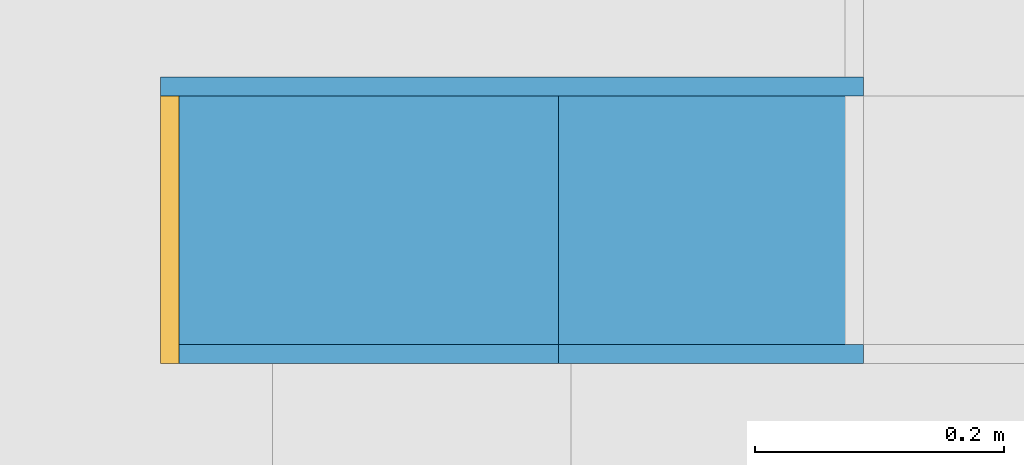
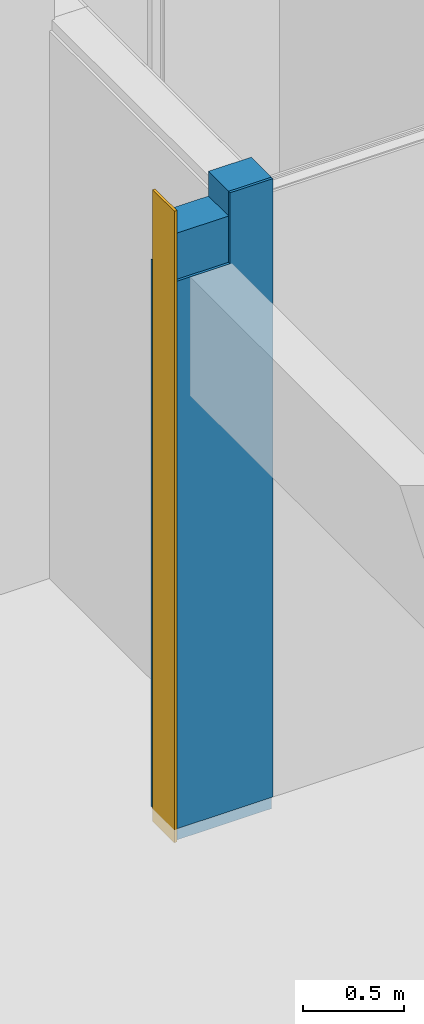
# One storey, part 24 of 139: 3 building element parts, 1 covering, 1 opening, 1 element without a shape of its own.
"""IFC2X3 building model written with IfcOpenShell, lengths in millimetres."""

from ifc_helpers import new_model, entity, si_unit, converted_unit, derived_unit, money_unit, direction, frame, origin_with_axes, place, context, subcontext, project, spatial, faceted_brep, source, transform, mapped, material, type_object, element, fill, aggregate, save


model = new_model("IFC2X3")

# Units and contexts
model_context = context("Model", 3, precision=0.01, world=origin_with_axes(), true_north=direction((0.0, 1.0)))
body_context = subcontext(model_context, "Body", "Model", "MODEL_VIEW")
ifc_project = project(units=[si_unit("LENGTHUNIT", "METRE", prefix="MILLI"), si_unit("AREAUNIT", "SQUARE_METRE"), si_unit("VOLUMEUNIT", "CUBIC_METRE"), converted_unit("PLANEANGLEUNIT", "DEGREE", entity("IfcPlaneAngleMeasure", 0.0174532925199), si_unit("PLANEANGLEUNIT", "RADIAN"), dimensions=[0, 0, 0, 0, 0, 0, 0]), money_unit("EUR"), converted_unit("TIMEUNIT", "Year", entity("IfcTimeMeasure", 31556926.0), si_unit("TIMEUNIT", "SECOND"), dimensions=[0, 0, 1, 0, 0, 0, 0]), si_unit("MASSUNIT", "GRAM", prefix="KILO"), si_unit("THERMODYNAMICTEMPERATUREUNIT", "DEGREE_CELSIUS"), si_unit("LUMINOUSINTENSITYUNIT", "LUMEN"), si_unit("ENERGYUNIT", "JOULE", prefix="MEGA"), derived_unit("THERMALCONDUCTANCEUNIT", [(si_unit("POWERUNIT", "WATT"), 1), (si_unit("LENGTHUNIT", "METRE"), -1), (si_unit("THERMODYNAMICTEMPERATUREUNIT", "KELVIN"), -1)]), derived_unit("SPECIFICHEATCAPACITYUNIT", [(si_unit("ENERGYUNIT", "JOULE"), 1), (si_unit("MASSUNIT", "GRAM", prefix="KILO"), -1), (si_unit("THERMODYNAMICTEMPERATUREUNIT", "KELVIN"), -1)]), derived_unit("MASSDENSITYUNIT", [(si_unit("MASSUNIT", "GRAM", prefix="KILO"), 1), (si_unit("VOLUMEUNIT", "CUBIC_METRE"), -1)])], contexts=[model_context])

# Site, building, storey
site_placement = place(None, origin_with_axes())
site = spatial("IfcSite", under=ifc_project, at=site_placement, Name="Kolde pst 67a", CompositionType="ELEMENT")
building_placement = place(site_placement, origin_with_axes())
building = spatial("IfcBuilding", under=site, at=building_placement, Name="Riigigümnaasium", CompositionType="ELEMENT")
storey_placement = place(building_placement, frame((0.0, 0.0, 4600.0), z_axis=(0.0, 0.0, 1.0), x_axis=(1.0, 0.0, 0.0)))
storey = spatial("IfcBuildingStorey", under=building, at=storey_placement, Name="2. korrus", CompositionType="ELEMENT", Elevation=4600.0)

# Covering
ifc_material_1 = material(Name="_VIIMISTLUSKIHT - viimistlus vastavalt SA osale")
covering_type = type_object("IfcCoveringType", Name="Returned End 25", PredefinedType="NOTDEFINED")
shared_shape = source(origin_with_axes(), body_context, "Body", "Brep", [
    faceted_brep([(0.0, 0.0, 0.0), (0.0, -15.0, 0.0), (0.0, -15.0, 3830.0), (0.0, 0.0, 3830.0), (215.0, 0.0, 0.0), (215.0, -15.0, 0.0), (215.0, -15.0, 3830.0), (215.0, 0.0, 3830.0)], [[[0, 1, 2, 3]], [[4, 5, 1, 0]], [[5, 6, 2, 1]], [[6, 7, 3, 2]], [[7, 4, 0, 3]], [[4, 7, 6, 5]]]),
])
wall_placement = place(storey_placement, frame((36604.99923, 45669.9999598, -80.0), z_axis=(0.0, 0.0, 1.0), x_axis=(-1.0, 0.0, 0.0)))
opening_placement = place(wall_placement, frame((565.0, 0.0, 0.0), z_axis=(0.0, 0.0, 1.0), x_axis=(1.0, 0.0, 0.0)))
covering_placement = place(opening_placement, frame((-7.5, 0.0, 0.0), z_axis=(0.0, 0.0, 1.0), x_axis=(1.0, 0.0, 0.0)))
covering = element("IfcCovering", 1, at=covering_placement, inside=storey, type_object=covering_type, material=ifc_material_1, Name="Pale", PredefinedType="NOTDEFINED", context=body_context, shape_type="MappedRepresentation", body=[
    mapped(shared_shape, transform((7.5, 15.0, 0.0), x_axis=(0.0, -1.0, 0.0), y_axis=(1.0, 0.0, 0.0), z_axis=(0.0, 0.0, 1.0))),
])

# Wall, opening
wall_type = type_object("IfcWallType", Name="SS-RB-20/2_+2 plaat 230", PredefinedType="NOTDEFINED")
wall = element("IfcWall", 2, at=wall_placement, inside=storey, type_object=wall_type, Name="Sisesein")
opening = element("IfcOpeningElement", 3, at=opening_placement, cuts=wall, Name="Pale", context=body_context, shape_type="Brep", body=[
    faceted_brep([(-15.0, -200.0, 0.0), (0.0, -200.0, 0.0), (0.0, -200.0, 3830.0), (-15.0, -200.0, 3830.0), (-15.0, 15.0, 0.0), (0.0, 15.0, 0.0), (0.0, 15.0, 3830.0), (-15.0, 15.0, 3830.0)], [[[0, 1, 2, 3]], [[0, 4, 5, 1]], [[1, 5, 6, 2]], [[3, 2, 6, 7]], [[4, 0, 3, 7]], [[5, 4, 7, 6]]]),
])

fill(opening, covering)

# Building element part
building_element_part_1_placement = place(wall_placement, origin_with_axes())
building_element_part_1 = element("IfcBuildingElementPart", 4, at=building_element_part_1_placement, material=ifc_material_1, Name="_VIIMISTLUSKIHT - viimistlus vastavalt SA osale", context=body_context, shape_type="Brep", body=[
    faceted_brep([(550.0, 0.0, 80.0), (550.0, 0.0, 3400.0), (245.000104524, 0.0, 3400.0), (245.000104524, 0.0, 3830.0), (0.0, 0.0, 3830.0), (0.0, 0.0, 80.0), (550.0, 15.0, 3400.0), (550.0, 15.0, 80.0), (245.000104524, 15.0, 3400.0), (245.000104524, 15.0, 3830.0), (0.0, 15.0, 3830.0), (0.0, 15.0, 80.0)], [[[0, 1, 2, 3, 4, 5]], [[6, 1, 0, 7]], [[1, 6, 8, 2]], [[2, 8, 9, 3]], [[9, 10, 4, 3]], [[5, 4, 10, 11]], [[7, 0, 5, 11]], [[6, 7, 11, 10, 9, 8]]]),
])

ifc_material_2 = material(Name="_KANDETARIND - monteeritav raudbetoon vastavalt EK osale")
building_element_part_2_placement = place(wall_placement, origin_with_axes())
building_element_part_2 = element("IfcBuildingElementPart", 5, at=building_element_part_2_placement, material=ifc_material_2, Name="_KANDETARIND - monteeritav raudbetoon vastavalt EK osale", context=body_context, shape_type="Brep", body=[
    faceted_brep([(550.0, -200.0, 0.0), (550.0, -200.0, 3680.0), (245.000104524, -200.000038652, 3680.0), (245.000104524, -200.000038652, 3830.0), (0.0, -200.0, 3830.0), (0.0, -200.0, 0.0), (550.0, 0.0, 3680.0), (550.0, 0.0, 0.0), (245.000104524, 0.0, 3680.0), (245.000104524, 0.0, 3830.0), (0.0, 0.0, 3830.0), (0.0, 0.0, 0.0)], [[[0, 1, 2, 3, 4, 5]], [[6, 1, 0, 7]], [[1, 6, 8, 2]], [[2, 8, 9, 3]], [[9, 10, 4, 3]], [[5, 4, 10, 11]], [[7, 0, 5, 11]], [[6, 7, 11, 10, 9, 8]]]),
])

building_element_part_3_placement = place(wall_placement, origin_with_axes())
building_element_part_3 = element("IfcBuildingElementPart", 6, at=building_element_part_3_placement, material=ifc_material_1, Name="_VIIMISTLUSKIHT - viimistlus vastavalt SA osale", context=body_context, shape_type="Brep", body=[
    faceted_brep([(565.0, -215.0, 3400.0), (0.0, -215.0, 3400.0), (0.0, -215.0, 80.0), (565.0, -215.0, 80.0), (565.0, -200.0, 3400.0), (245.000104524, -200.000038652, 3400.0), (0.0, -200.0, 3400.0), (0.0, -200.0, 80.0), (565.0, -200.0, 80.0)], [[[0, 1, 2, 3]], [[1, 0, 4, 5, 6]], [[1, 6, 7, 2]], [[3, 2, 7, 8]], [[4, 0, 3, 8]], [[5, 4, 8, 7, 6]]]),
])

aggregate(wall, [building_element_part_1, building_element_part_2, building_element_part_3])

save(model, "model.ifc")
